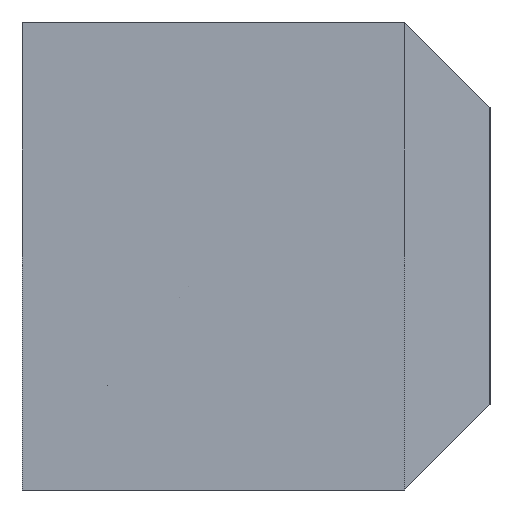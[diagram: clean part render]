
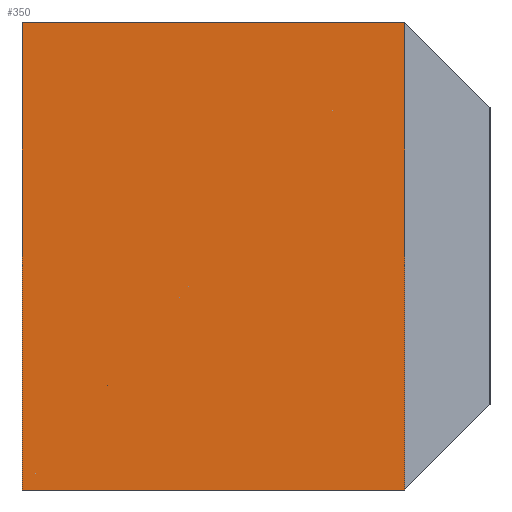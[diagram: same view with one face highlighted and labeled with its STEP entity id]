
A CAD part, left-side view. The second image highlights one B-rep face of the part: STEP entity #350.
In plain terms, the highlighted planar face has unit normal (-1, 0, 0).
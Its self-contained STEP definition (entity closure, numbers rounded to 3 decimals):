
#57=CARTESIAN_POINT('Line Origine',(-25.,22.,0.)) ;
#61=CARTESIAN_POINT('Vertex',(-25.,22.,-11.)) ;
#63=CARTESIAN_POINT('Vertex',(-25.,22.,11.)) ;
#320=CARTESIAN_POINT('Axis2P3D Location',(-25.,0.,0.)) ;
#325=CARTESIAN_POINT('Line Origine',(-25.,4.,0.)) ;
#329=CARTESIAN_POINT('Vertex',(-25.,4.,11.)) ;
#331=CARTESIAN_POINT('Vertex',(-25.,4.,-11.)) ;
#334=CARTESIAN_POINT('Line Origine',(-25.,13.,11.)) ;
#339=CARTESIAN_POINT('Line Origine',(-25.,13.,-11.)) ;
#58=DIRECTION('Vector Direction',(0.,0.,1.)) ;
#321=DIRECTION('Axis2P3D Direction',(1.,0.,0.)) ;
#322=DIRECTION('Axis2P3D XDirection',(0.,0.,-1.)) ;
#326=DIRECTION('Vector Direction',(0.,0.,-1.)) ;
#335=DIRECTION('Vector Direction',(0.,-1.,0.)) ;
#340=DIRECTION('Vector Direction',(0.,1.,0.)) ;
#323=AXIS2_PLACEMENT_3D('Plane Axis2P3D',#320,#321,#322) ;
#345=ORIENTED_EDGE('',*,*,#333,.F.) ;
#346=ORIENTED_EDGE('',*,*,#338,.F.) ;
#347=ORIENTED_EDGE('',*,*,#65,.F.) ;
#348=ORIENTED_EDGE('',*,*,#343,.F.) ;
#59=VECTOR('Line Direction',#58,1.) ;
#327=VECTOR('Line Direction',#326,1.) ;
#336=VECTOR('Line Direction',#335,1.) ;
#341=VECTOR('Line Direction',#340,1.) ;
#350=ADVANCED_FACE('761-022050',(#349),#324,.F.) ;
#65=EDGE_CURVE('',#62,#64,#60,.T.) ;
#333=EDGE_CURVE('',#330,#332,#328,.T.) ;
#338=EDGE_CURVE('',#64,#330,#337,.T.) ;
#343=EDGE_CURVE('',#332,#62,#342,.T.) ;
#344=EDGE_LOOP('',(#345,#346,#347,#348)) ;
#349=FACE_OUTER_BOUND('',#344,.T.) ;
#60=LINE('Line',#57,#59) ;
#328=LINE('Line',#325,#327) ;
#337=LINE('Line',#334,#336) ;
#342=LINE('Line',#339,#341) ;
#324=PLANE('Plane',#323) ;
#62=VERTEX_POINT('',#61) ;
#64=VERTEX_POINT('',#63) ;
#330=VERTEX_POINT('',#329) ;
#332=VERTEX_POINT('',#331) ;
